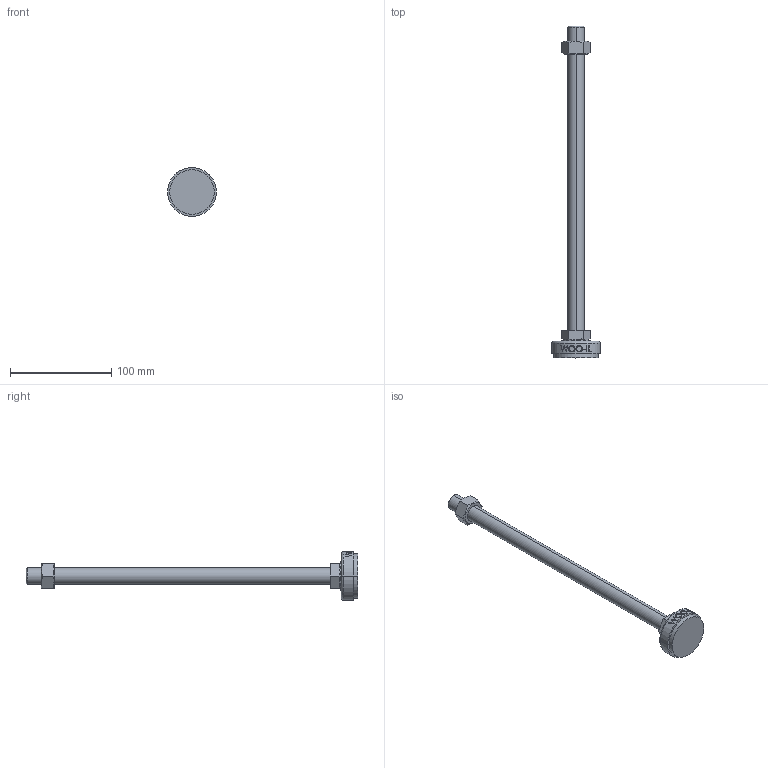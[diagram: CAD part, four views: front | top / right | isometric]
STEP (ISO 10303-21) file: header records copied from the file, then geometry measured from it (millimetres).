
FILE_DESCRIPTION (( 'STEP AP214' ), '1' );
FILE_NAME ('NS48-M16-300.step', '2021-01-11T05:44:25', ( '' ), ( '' ), 'SwSTEP 2.0', 'SolidWorks 2019', '' );
FILE_SCHEMA (( 'AUTOMOTIVE_DESIGN' ));
Length unit declared in the file: millimetre
Products named in the file (2): NS48-M16-300
Bounding box: 48 x 327.5 x 48 mm (x, y, z)
Volume: 98055.1 mm3; surface area: 25075.7 mm2
Topology: 3 solids, 3 shells, 96 faces, 223 edges, 144 vertices
Faces by surface type: plane 48, cylinder 18, bspline 16, cone 12, torus 2
Entity records: 4250 total; most frequent: CARTESIAN_POINT 2125, ORIENTED_EDGE 446, DIRECTION 381, EDGE_CURVE 223, VERTEX_POINT 144, AXIS2_PLACEMENT_3D 142, EDGE_LOOP 109, LINE 97
